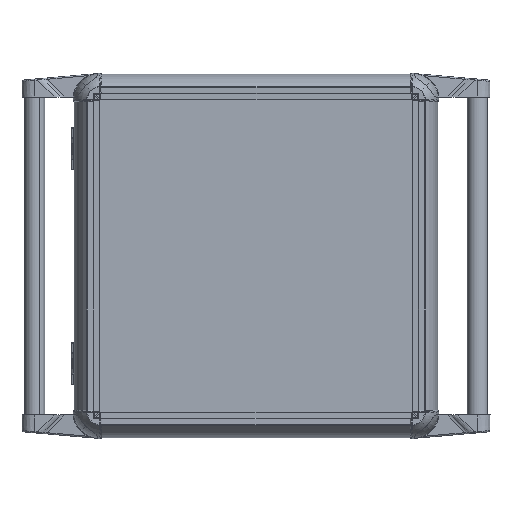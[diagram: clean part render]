
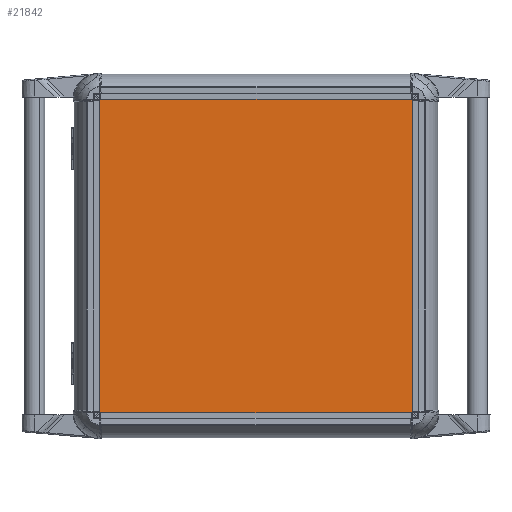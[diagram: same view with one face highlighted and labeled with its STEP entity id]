
A CAD part, top view. The second image highlights one B-rep face of the part: STEP entity #21842.
In plain terms, the highlighted planar face has unit normal (0, 0, 1).
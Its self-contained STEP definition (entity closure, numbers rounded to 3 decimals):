
#6011 = CIRCLE ( 'NONE', #107110, 5. ) ;
#10239 = DIRECTION ( 'NONE',  ( -1., 0., 0. ) ) ;
#12197 = DIRECTION ( 'NONE',  ( 0., 0., 1. ) ) ;
#13624 = EDGE_CURVE ( 'NONE', #88084, #125754, #153158, .T. ) ;
#17372 = DIRECTION ( 'NONE',  ( 0., 0., 1. ) ) ;
#19020 = DIRECTION ( 'NONE',  ( 0., 0., 1. ) ) ;
#19072 = DIRECTION ( 'NONE',  ( 0., 0., 1. ) ) ;
#20806 = VECTOR ( 'NONE', #78349, 1000. ) ;
#21842 = ADVANCED_FACE ( 'NONE', ( #182158 ), #183135, .T. ) ;
#23159 = LINE ( 'NONE', #51949, #47204 ) ;
#29073 = CARTESIAN_POINT ( 'NONE',  ( -150., -145., 2. ) ) ;
#31292 = CARTESIAN_POINT ( 'NONE',  ( -145., -145., 2. ) ) ;
#33978 = CARTESIAN_POINT ( 'NONE',  ( -145., -145., 2. ) ) ;
#35119 = EDGE_CURVE ( 'NONE', #61957, #69608, #181348, .T. ) ;
#36530 = EDGE_CURVE ( 'NONE', #88276, #193725, #147498, .T. ) ;
#46800 = AXIS2_PLACEMENT_3D ( 'NONE', #31292, #17372, #62979 ) ;
#47204 = VECTOR ( 'NONE', #10239, 1000. ) ;
#51949 = CARTESIAN_POINT ( 'NONE',  ( -145., 150., 2. ) ) ;
#54285 = ORIENTED_EDGE ( 'NONE', *, *, #13624, .T. ) ;
#61957 = VERTEX_POINT ( 'NONE', #160995 ) ;
#62979 = DIRECTION ( 'NONE',  ( 1., 0., 0. ) ) ;
#65742 = DIRECTION ( 'NONE',  ( 1., 0., 0. ) ) ;
#67181 = VECTOR ( 'NONE', #155012, 1000. ) ;
#68301 = DIRECTION ( 'NONE',  ( 0., 0., 1. ) ) ;
#69608 = VERTEX_POINT ( 'NONE', #91616 ) ;
#72563 = DIRECTION ( 'NONE',  ( 1., 0., 0. ) ) ;
#75612 = ORIENTED_EDGE ( 'NONE', *, *, #35119, .T. ) ;
#78349 = DIRECTION ( 'NONE',  ( 0., 1., 0. ) ) ;
#81147 = EDGE_CURVE ( 'NONE', #125754, #143598, #165506, .T. ) ;
#85390 = CARTESIAN_POINT ( 'NONE',  ( 145., -150., 2. ) ) ;
#88084 = VERTEX_POINT ( 'NONE', #190132 ) ;
#88102 = ORIENTED_EDGE ( 'NONE', *, *, #36530, .T. ) ;
#88276 = VERTEX_POINT ( 'NONE', #29073 ) ;
#91616 = CARTESIAN_POINT ( 'NONE',  ( -150., 145., 2. ) ) ;
#93407 = ORIENTED_EDGE ( 'NONE', *, *, #81147, .T. ) ;
#96400 = CARTESIAN_POINT ( 'NONE',  ( -145., -150., 2. ) ) ;
#99342 = EDGE_CURVE ( 'NONE', #143598, #61957, #23159, .T. ) ;
#100230 = EDGE_CURVE ( 'NONE', #105060, #88084, #6011, .T. ) ;
#105060 = VERTEX_POINT ( 'NONE', #85390 ) ;
#106337 = VECTOR ( 'NONE', #65742, 1000. ) ;
#107110 = AXIS2_PLACEMENT_3D ( 'NONE', #178971, #12197, #72563 ) ;
#109921 = DIRECTION ( 'NONE',  ( -1., 0., 0. ) ) ;
#109942 = CARTESIAN_POINT ( 'NONE',  ( 150., 145., 2. ) ) ;
#114954 = EDGE_CURVE ( 'NONE', #193725, #105060, #140473, .T. ) ;
#119426 = ORIENTED_EDGE ( 'NONE', *, *, #99342, .T. ) ;
#123551 = CARTESIAN_POINT ( 'NONE',  ( 145., 145., 2. ) ) ;
#125754 = VERTEX_POINT ( 'NONE', #149041 ) ;
#127802 = AXIS2_PLACEMENT_3D ( 'NONE', #123551, #68301, #160829 ) ;
#133569 = ORIENTED_EDGE ( 'NONE', *, *, #174185, .T. ) ;
#135002 = AXIS2_PLACEMENT_3D ( 'NONE', #33978, #19072, #168996 ) ;
#140339 = EDGE_LOOP ( 'NONE', ( #88102, #153764, #162517, #54285, #93407, #119426, #75612, #133569 ) ) ;
#140473 = LINE ( 'NONE', #96400, #106337 ) ;
#143598 = VERTEX_POINT ( 'NONE', #149757 ) ;
#147498 = CIRCLE ( 'NONE', #135002, 5. ) ;
#149041 = CARTESIAN_POINT ( 'NONE',  ( 150., 145., 2. ) ) ;
#149757 = CARTESIAN_POINT ( 'NONE',  ( 145., 150., 2. ) ) ;
#151130 = CARTESIAN_POINT ( 'NONE',  ( -150., 145., 2. ) ) ;
#153158 = LINE ( 'NONE', #109942, #20806 ) ;
#153764 = ORIENTED_EDGE ( 'NONE', *, *, #114954, .T. ) ;
#155012 = DIRECTION ( 'NONE',  ( 0., -1., 0. ) ) ;
#155118 = CARTESIAN_POINT ( 'NONE',  ( -145., 145., 2. ) ) ;
#159376 = AXIS2_PLACEMENT_3D ( 'NONE', #155118, #19020, #109921 ) ;
#160829 = DIRECTION ( 'NONE',  ( 1., 0., 0. ) ) ;
#160995 = CARTESIAN_POINT ( 'NONE',  ( -145., 150., 2. ) ) ;
#162517 = ORIENTED_EDGE ( 'NONE', *, *, #100230, .T. ) ;
#165506 = CIRCLE ( 'NONE', #127802, 5. ) ;
#166893 = LINE ( 'NONE', #151130, #67181 ) ;
#168996 = DIRECTION ( 'NONE',  ( 1., 0., 0. ) ) ;
#172509 = CARTESIAN_POINT ( 'NONE',  ( -145., -150., 2. ) ) ;
#174185 = EDGE_CURVE ( 'NONE', #69608, #88276, #166893, .T. ) ;
#178971 = CARTESIAN_POINT ( 'NONE',  ( 145., -145., 2. ) ) ;
#181348 = CIRCLE ( 'NONE', #159376, 5. ) ;
#182158 = FACE_OUTER_BOUND ( 'NONE', #140339, .T. ) ;
#183135 = PLANE ( 'NONE',  #46800 ) ;
#190132 = CARTESIAN_POINT ( 'NONE',  ( 150., -145., 2. ) ) ;
#193725 = VERTEX_POINT ( 'NONE', #172509 ) ;
